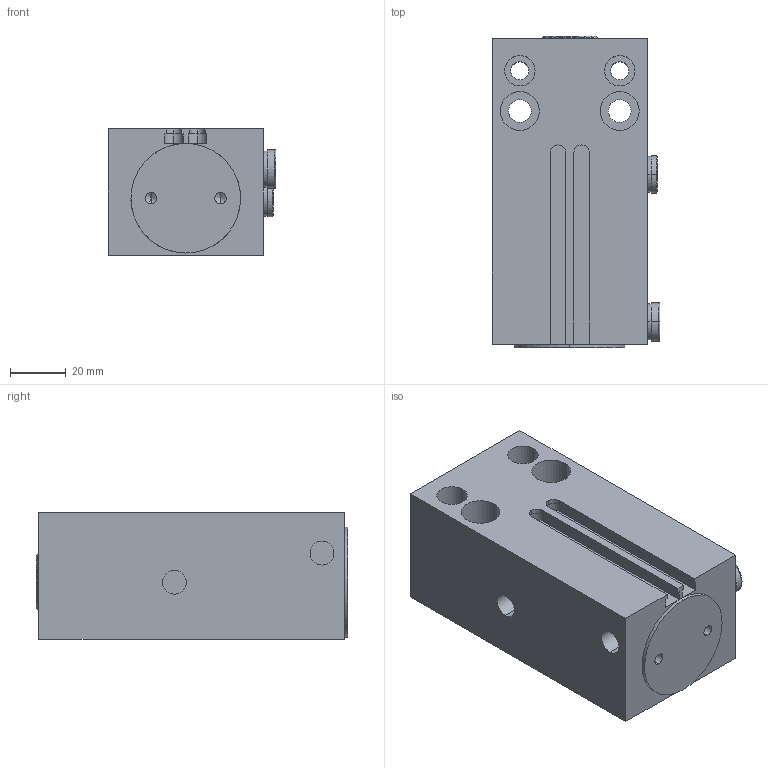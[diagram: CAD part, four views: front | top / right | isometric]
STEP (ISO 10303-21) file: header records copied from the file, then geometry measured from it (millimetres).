
FILE_DESCRIPTION (( 'STEP AP203' ), '1' );
FILE_NAME ('DI-490.STEP', '2008-09-25T06:27:24', ( '' ), ( '' ), 'SwSTEP 2.0', 'SolidWorks 2007', '' );
FILE_SCHEMA (( 'CONFIG_CONTROL_DESIGN' ));
Length unit declared in the file: millimetre
Products named in the file (1): DI-490
Bounding box: 60.5 x 112.3 x 45.5 mm (x, y, z)
Volume: 263588.4 mm3; surface area: 36033.6 mm2
Topology: 1 solids, 1 shells, 138 faces, 326 edges, 197 vertices
Faces by surface type: cylinder 58, plane 58, cone 20, torus 2
Entity records: 3983 total; most frequent: DIRECTION 732, CARTESIAN_POINT 652, ORIENTED_EDGE 632, EDGE_CURVE 316, AXIS2_PLACEMENT_3D 277, VERTEX_POINT 197, VECTOR 178, LINE 178
